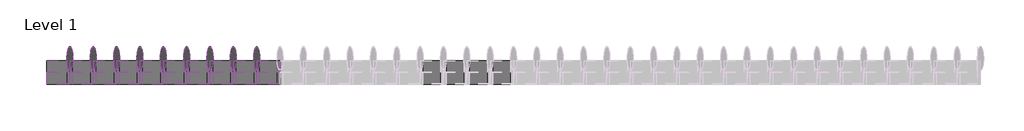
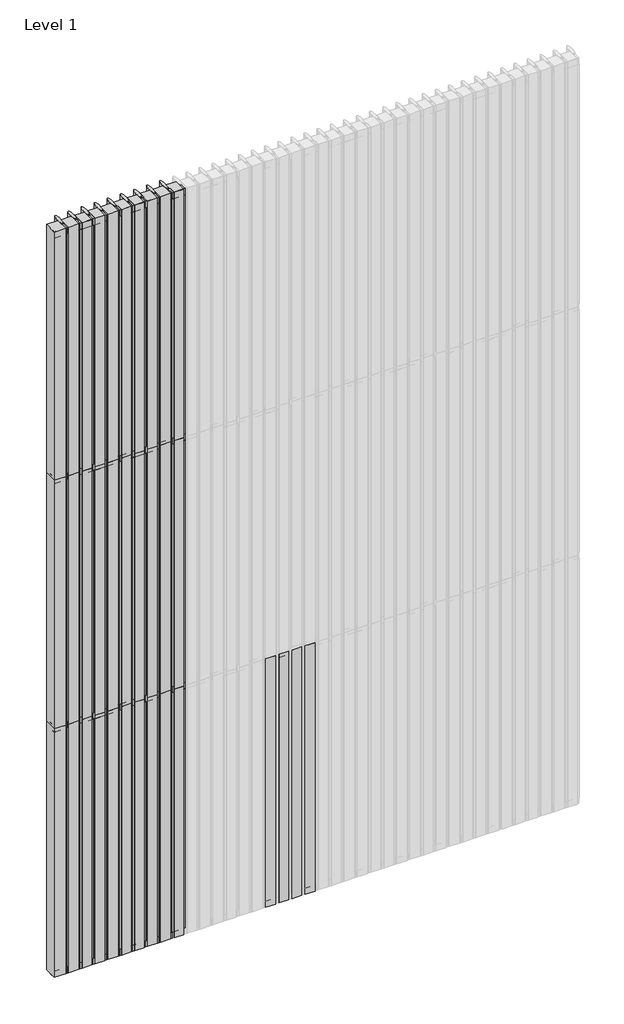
# One storey, part 1 of 6: 66 members, 64 plates.
"""IFC4 building model written with IfcOpenShell, lengths in millimetres."""

from ifc_helpers import new_model, si_unit, origin, place, context, project, spatial, transform, mapped, element, save
from components import rectangular_mullion_31e9810d, rectangular_mullion_cddbc660, rectangular_mullion_a3e25429, rectangular_mullion_ae434dd9, empty_system_panel_empty_b0df5d9c, empty_system_panel_empty_de76a839, empty_system_panel_empty_5411477d, empty_system_panel_empty_c50988b4

model = new_model("IFC4")

# Units and contexts
model_context = context("Model", 3, world=origin())
ifc_project = project(units=[si_unit("LENGTHUNIT", "METRE", prefix="MILLI")], contexts=[model_context])

# Site, building, storey
site = spatial("IfcSite", under=ifc_project)
building = spatial("IfcBuilding", under=site)
storey = spatial("IfcBuildingStorey", under=building, Name="Level 1", Elevation=0.0)

# Members
placement = place(None, origin())
rectangular_mullion_shape = rectangular_mullion_31e9810d(model_context)
element("IfcMember", 1, ObjectType="Rectangular Mullion : RSen_21_CWM_blade - 100 ellips - 0°_gen_duco projects", at=placement, inside=storey, context=model_context, shape_type="MappedRepresentation", body=[
    mapped(rectangular_mullion_shape, transform((900.0, 3000.0, 0.0), x_axis=(-1.0, 0.0, 0.0), y_axis=(0.0, 1.0, 0.0), z_axis=(0.0, 0.0, -1.0))),
])
element("IfcMember", 2, ObjectType="Rectangular Mullion : RSen_21_CWM_blade - 100 ellips - 0°_gen_duco projects", at=placement, inside=storey, context=model_context, shape_type="MappedRepresentation", body=[
    mapped(rectangular_mullion_shape, transform((800.0, 3000.0, 0.0), x_axis=(-1.0, 0.0, 0.0), y_axis=(0.0, 1.0, 0.0), z_axis=(0.0, 0.0, -1.0))),
])
element("IfcMember", 3, ObjectType="Rectangular Mullion : RSen_21_CWM_blade - 100 ellips - 0°_gen_duco projects", at=placement, inside=storey, context=model_context, shape_type="MappedRepresentation", body=[
    mapped(rectangular_mullion_shape, transform((700.0, 3000.0, 0.0), x_axis=(-1.0, 0.0, 0.0), y_axis=(0.0, 1.0, 0.0), z_axis=(0.0, 0.0, -1.0))),
])
element("IfcMember", 4, ObjectType="Rectangular Mullion : RSen_21_CWM_blade - 100 ellips - 0°_gen_duco projects", at=placement, inside=storey, context=model_context, shape_type="MappedRepresentation", body=[
    mapped(rectangular_mullion_shape, transform((600.0, 3000.0, 0.0), x_axis=(-1.0, 0.0, 0.0), y_axis=(0.0, 1.0, 0.0), z_axis=(0.0, 0.0, -1.0))),
])
element("IfcMember", 5, ObjectType="Rectangular Mullion : RSen_21_CWM_blade - 100 ellips - 0°_gen_duco projects", at=placement, inside=storey, context=model_context, shape_type="MappedRepresentation", body=[
    mapped(rectangular_mullion_shape, transform((500.0, 3000.0, 0.0), x_axis=(-1.0, 0.0, 0.0), y_axis=(0.0, 1.0, 0.0), z_axis=(0.0, 0.0, -1.0))),
])
element("IfcMember", 6, ObjectType="Rectangular Mullion : RSen_21_CWM_blade - 100 ellips - 0°_gen_duco projects", at=placement, inside=storey, context=model_context, shape_type="MappedRepresentation", body=[
    mapped(rectangular_mullion_shape, transform((400.0, 3000.0, 0.0), x_axis=(-1.0, 0.0, 0.0), y_axis=(0.0, 1.0, 0.0), z_axis=(0.0, 0.0, -1.0))),
])
element("IfcMember", 7, ObjectType="Rectangular Mullion : RSen_21_CWM_blade - 100 ellips - 0°_gen_duco projects", at=placement, inside=storey, context=model_context, shape_type="MappedRepresentation", body=[
    mapped(rectangular_mullion_shape, transform((300.0, 3000.0, 0.0), x_axis=(-1.0, 0.0, 0.0), y_axis=(0.0, 1.0, 0.0), z_axis=(0.0, 0.0, -1.0))),
])
element("IfcMember", 8, ObjectType="Rectangular Mullion : RSen_21_CWM_blade - 100 ellips - 0°_gen_duco projects", at=placement, inside=storey, context=model_context, shape_type="MappedRepresentation", body=[
    mapped(rectangular_mullion_shape, transform((200.0, 3000.0, 0.0), x_axis=(-1.0, 0.0, 0.0), y_axis=(0.0, 1.0, 0.0), z_axis=(0.0, 0.0, -1.0))),
])
element("IfcMember", 9, ObjectType="Rectangular Mullion : RSen_21_CWM_blade - 100 ellips - 0°_gen_duco projects", at=placement, inside=storey, context=model_context, shape_type="MappedRepresentation", body=[
    mapped(rectangular_mullion_shape, transform((100.0, 3000.0, 0.0), x_axis=(-1.0, 0.0, 0.0), y_axis=(0.0, 1.0, 0.0), z_axis=(0.0, 0.0, -1.0))),
])
element("IfcMember", 10, ObjectType="Rectangular Mullion : RSen_21_CWM_blade - 100 ellips - 0°_gen_duco projects", at=placement, inside=storey, context=model_context, shape_type="MappedRepresentation", body=[
    mapped(rectangular_mullion_shape, transform((900.0, 3000.0, 2000.0), x_axis=(-1.0, 0.0, 0.0), y_axis=(0.0, 1.0, 0.0), z_axis=(0.0, 0.0, -1.0))),
])
element("IfcMember", 11, ObjectType="Rectangular Mullion : RSen_21_CWM_blade - 100 ellips - 0°_gen_duco projects", at=placement, inside=storey, context=model_context, shape_type="MappedRepresentation", body=[
    mapped(rectangular_mullion_shape, transform((800.0, 3000.0, 2000.0), x_axis=(-1.0, 0.0, 0.0), y_axis=(0.0, 1.0, 0.0), z_axis=(0.0, 0.0, -1.0))),
])
element("IfcMember", 12, ObjectType="Rectangular Mullion : RSen_21_CWM_blade - 100 ellips - 0°_gen_duco projects", at=placement, inside=storey, context=model_context, shape_type="MappedRepresentation", body=[
    mapped(rectangular_mullion_shape, transform((700.0, 3000.0, 2000.0), x_axis=(-1.0, 0.0, 0.0), y_axis=(0.0, 1.0, 0.0), z_axis=(0.0, 0.0, -1.0))),
])
element("IfcMember", 13, ObjectType="Rectangular Mullion : RSen_21_CWM_blade - 100 ellips - 0°_gen_duco projects", at=placement, inside=storey, context=model_context, shape_type="MappedRepresentation", body=[
    mapped(rectangular_mullion_shape, transform((600.0, 3000.0, 2000.0), x_axis=(-1.0, 0.0, 0.0), y_axis=(0.0, 1.0, 0.0), z_axis=(0.0, 0.0, -1.0))),
])
element("IfcMember", 14, ObjectType="Rectangular Mullion : RSen_21_CWM_blade - 100 ellips - 0°_gen_duco projects", at=placement, inside=storey, context=model_context, shape_type="MappedRepresentation", body=[
    mapped(rectangular_mullion_shape, transform((500.0, 3000.0, 2000.0), x_axis=(-1.0, 0.0, 0.0), y_axis=(0.0, 1.0, 0.0), z_axis=(0.0, 0.0, -1.0))),
])
element("IfcMember", 15, ObjectType="Rectangular Mullion : RSen_21_CWM_blade - 100 ellips - 0°_gen_duco projects", at=placement, inside=storey, context=model_context, shape_type="MappedRepresentation", body=[
    mapped(rectangular_mullion_shape, transform((400.0, 3000.0, 2000.0), x_axis=(-1.0, 0.0, 0.0), y_axis=(0.0, 1.0, 0.0), z_axis=(0.0, 0.0, -1.0))),
])
element("IfcMember", 16, ObjectType="Rectangular Mullion : RSen_21_CWM_blade - 100 ellips - 0°_gen_duco projects", at=placement, inside=storey, context=model_context, shape_type="MappedRepresentation", body=[
    mapped(rectangular_mullion_shape, transform((300.0, 3000.0, 2000.0), x_axis=(-1.0, 0.0, 0.0), y_axis=(0.0, 1.0, 0.0), z_axis=(0.0, 0.0, -1.0))),
])
element("IfcMember", 17, ObjectType="Rectangular Mullion : RSen_21_CWM_blade - 100 ellips - 0°_gen_duco projects", at=placement, inside=storey, context=model_context, shape_type="MappedRepresentation", body=[
    mapped(rectangular_mullion_shape, transform((200.0, 3000.0, 2000.0), x_axis=(-1.0, 0.0, 0.0), y_axis=(0.0, 1.0, 0.0), z_axis=(0.0, 0.0, -1.0))),
])
element("IfcMember", 18, ObjectType="Rectangular Mullion : RSen_21_CWM_blade - 100 ellips - 0°_gen_duco projects", at=placement, inside=storey, context=model_context, shape_type="MappedRepresentation", body=[
    mapped(rectangular_mullion_shape, transform((100.0, 3000.0, 2000.0), x_axis=(-1.0, 0.0, 0.0), y_axis=(0.0, 1.0, 0.0), z_axis=(0.0, 0.0, -1.0))),
])
element("IfcMember", 19, ObjectType="Rectangular Mullion : RSen_21_CWM_blade - 100 ellips - 0°_gen_duco projects", at=placement, inside=storey, context=model_context, shape_type="MappedRepresentation", body=[
    mapped(rectangular_mullion_shape, transform((900.0, 3000.0, 4000.0), x_axis=(-1.0, 0.0, 0.0), y_axis=(0.0, 1.0, 0.0), z_axis=(0.0, 0.0, -1.0))),
])
element("IfcMember", 20, ObjectType="Rectangular Mullion : RSen_21_CWM_blade - 100 ellips - 0°_gen_duco projects", at=placement, inside=storey, context=model_context, shape_type="MappedRepresentation", body=[
    mapped(rectangular_mullion_shape, transform((800.0, 3000.0, 4000.0), x_axis=(-1.0, 0.0, 0.0), y_axis=(0.0, 1.0, 0.0), z_axis=(0.0, 0.0, -1.0))),
])
element("IfcMember", 21, ObjectType="Rectangular Mullion : RSen_21_CWM_blade - 100 ellips - 0°_gen_duco projects", at=placement, inside=storey, context=model_context, shape_type="MappedRepresentation", body=[
    mapped(rectangular_mullion_shape, transform((700.0, 3000.0, 4000.0), x_axis=(-1.0, 0.0, 0.0), y_axis=(0.0, 1.0, 0.0), z_axis=(0.0, 0.0, -1.0))),
])
element("IfcMember", 22, ObjectType="Rectangular Mullion : RSen_21_CWM_blade - 100 ellips - 0°_gen_duco projects", at=placement, inside=storey, context=model_context, shape_type="MappedRepresentation", body=[
    mapped(rectangular_mullion_shape, transform((600.0, 3000.0, 4000.0), x_axis=(-1.0, 0.0, 0.0), y_axis=(0.0, 1.0, 0.0), z_axis=(0.0, 0.0, -1.0))),
])
element("IfcMember", 23, ObjectType="Rectangular Mullion : RSen_21_CWM_blade - 100 ellips - 0°_gen_duco projects", at=placement, inside=storey, context=model_context, shape_type="MappedRepresentation", body=[
    mapped(rectangular_mullion_shape, transform((500.0, 3000.0, 4000.0), x_axis=(-1.0, 0.0, 0.0), y_axis=(0.0, 1.0, 0.0), z_axis=(0.0, 0.0, -1.0))),
])
element("IfcMember", 24, ObjectType="Rectangular Mullion : RSen_21_CWM_blade - 100 ellips - 0°_gen_duco projects", at=placement, inside=storey, context=model_context, shape_type="MappedRepresentation", body=[
    mapped(rectangular_mullion_shape, transform((400.0, 3000.0, 4000.0), x_axis=(-1.0, 0.0, 0.0), y_axis=(0.0, 1.0, 0.0), z_axis=(0.0, 0.0, -1.0))),
])
element("IfcMember", 25, ObjectType="Rectangular Mullion : RSen_21_CWM_blade - 100 ellips - 0°_gen_duco projects", at=placement, inside=storey, context=model_context, shape_type="MappedRepresentation", body=[
    mapped(rectangular_mullion_shape, transform((300.0, 3000.0, 4000.0), x_axis=(-1.0, 0.0, 0.0), y_axis=(0.0, 1.0, 0.0), z_axis=(0.0, 0.0, -1.0))),
])
element("IfcMember", 26, ObjectType="Rectangular Mullion : RSen_21_CWM_blade - 100 ellips - 0°_gen_duco projects", at=placement, inside=storey, context=model_context, shape_type="MappedRepresentation", body=[
    mapped(rectangular_mullion_shape, transform((200.0, 3000.0, 4000.0), x_axis=(-1.0, 0.0, 0.0), y_axis=(0.0, 1.0, 0.0), z_axis=(0.0, 0.0, -1.0))),
])
element("IfcMember", 27, ObjectType="Rectangular Mullion : RSen_21_CWM_blade - 100 ellips - 0°_gen_duco projects", at=placement, inside=storey, context=model_context, shape_type="MappedRepresentation", body=[
    mapped(rectangular_mullion_shape, transform((100.0, 3000.0, 4000.0), x_axis=(-1.0, 0.0, 0.0), y_axis=(0.0, 1.0, 0.0), z_axis=(0.0, 0.0, -1.0))),
])
rectangular_mullion_2_shape = rectangular_mullion_cddbc660(model_context)
element("IfcMember", 28, ObjectType="Rectangular Mullion : RSen_21_CWM_support profile 50x50 - left_gen_duco projects", at=placement, inside=storey, context=model_context, shape_type="MappedRepresentation", body=[
    mapped(rectangular_mullion_2_shape, transform((0.0, 3000.0, 6000.0), x_axis=(0.0, 0.0, 1.0), y_axis=(0.0, 1.0, 0.0), z_axis=(-1.0, 0.0, 0.0))),
])
element("IfcMember", 29, ObjectType="Rectangular Mullion : RSen_21_CWM_support profile 50x50 - left_gen_duco projects", at=placement, inside=storey, context=model_context, shape_type="MappedRepresentation", body=[
    mapped(rectangular_mullion_2_shape, transform((900.0, 3000.0, 6000.0), x_axis=(0.0, 0.0, 1.0), y_axis=(0.0, 1.0, 0.0), z_axis=(-1.0, 0.0, 0.0))),
])
element("IfcMember", 30, ObjectType="Rectangular Mullion : RSen_21_CWM_support profile 50x50 - left_gen_duco projects", at=placement, inside=storey, context=model_context, shape_type="MappedRepresentation", body=[
    mapped(rectangular_mullion_2_shape, transform((800.0, 3000.0, 6000.0), x_axis=(0.0, 0.0, 1.0), y_axis=(0.0, 1.0, 0.0), z_axis=(-1.0, 0.0, 0.0))),
])
element("IfcMember", 31, ObjectType="Rectangular Mullion : RSen_21_CWM_support profile 50x50 - left_gen_duco projects", at=placement, inside=storey, context=model_context, shape_type="MappedRepresentation", body=[
    mapped(rectangular_mullion_2_shape, transform((700.0, 3000.0, 6000.0), x_axis=(0.0, 0.0, 1.0), y_axis=(0.0, 1.0, 0.0), z_axis=(-1.0, 0.0, 0.0))),
])
element("IfcMember", 32, ObjectType="Rectangular Mullion : RSen_21_CWM_support profile 50x50 - left_gen_duco projects", at=placement, inside=storey, context=model_context, shape_type="MappedRepresentation", body=[
    mapped(rectangular_mullion_2_shape, transform((600.0, 3000.0, 6000.0), x_axis=(0.0, 0.0, 1.0), y_axis=(0.0, 1.0, 0.0), z_axis=(-1.0, 0.0, 0.0))),
])
element("IfcMember", 33, ObjectType="Rectangular Mullion : RSen_21_CWM_support profile 50x50 - left_gen_duco projects", at=placement, inside=storey, context=model_context, shape_type="MappedRepresentation", body=[
    mapped(rectangular_mullion_2_shape, transform((500.0, 3000.0, 6000.0), x_axis=(0.0, 0.0, 1.0), y_axis=(0.0, 1.0, 0.0), z_axis=(-1.0, 0.0, 0.0))),
])
element("IfcMember", 34, ObjectType="Rectangular Mullion : RSen_21_CWM_support profile 50x50 - left_gen_duco projects", at=placement, inside=storey, context=model_context, shape_type="MappedRepresentation", body=[
    mapped(rectangular_mullion_2_shape, transform((400.0, 3000.0, 6000.0), x_axis=(0.0, 0.0, 1.0), y_axis=(0.0, 1.0, 0.0), z_axis=(-1.0, 0.0, 0.0))),
])
element("IfcMember", 35, ObjectType="Rectangular Mullion : RSen_21_CWM_support profile 50x50 - left_gen_duco projects", at=placement, inside=storey, context=model_context, shape_type="MappedRepresentation", body=[
    mapped(rectangular_mullion_2_shape, transform((300.0, 3000.0, 6000.0), x_axis=(0.0, 0.0, 1.0), y_axis=(0.0, 1.0, 0.0), z_axis=(-1.0, 0.0, 0.0))),
])
element("IfcMember", 36, ObjectType="Rectangular Mullion : RSen_21_CWM_support profile 50x50 - left_gen_duco projects", at=placement, inside=storey, context=model_context, shape_type="MappedRepresentation", body=[
    mapped(rectangular_mullion_2_shape, transform((200.0, 3000.0, 6000.0), x_axis=(0.0, 0.0, 1.0), y_axis=(0.0, 1.0, 0.0), z_axis=(-1.0, 0.0, 0.0))),
])
element("IfcMember", 37, ObjectType="Rectangular Mullion : RSen_21_CWM_support profile 50x50 - left_gen_duco projects", at=placement, inside=storey, context=model_context, shape_type="MappedRepresentation", body=[
    mapped(rectangular_mullion_2_shape, transform((100.0, 3000.0, 6000.0), x_axis=(0.0, 0.0, 1.0), y_axis=(0.0, 1.0, 0.0), z_axis=(-1.0, 0.0, 0.0))),
])
rectangular_mullion_3_shape = rectangular_mullion_a3e25429(model_context)
element("IfcMember", 38, ObjectType="Rectangular Mullion : RSen_21_CWM_support profile 50x50 - right_gen_duco projects", at=placement, inside=storey, context=model_context, shape_type="MappedRepresentation", body=[
    mapped(rectangular_mullion_3_shape, transform((900.0, 3000.0, 0.0), x_axis=(0.0, 0.0, -1.0), y_axis=(0.0, 1.0, 0.0), z_axis=(1.0, 0.0, 0.0))),
])
element("IfcMember", 39, ObjectType="Rectangular Mullion : RSen_21_CWM_support profile 50x50 - right_gen_duco projects", at=placement, inside=storey, context=model_context, shape_type="MappedRepresentation", body=[
    mapped(rectangular_mullion_3_shape, transform((800.0, 3000.0, 0.0), x_axis=(0.0, 0.0, -1.0), y_axis=(0.0, 1.0, 0.0), z_axis=(1.0, 0.0, 0.0))),
])
element("IfcMember", 40, ObjectType="Rectangular Mullion : RSen_21_CWM_support profile 50x50 - right_gen_duco projects", at=placement, inside=storey, context=model_context, shape_type="MappedRepresentation", body=[
    mapped(rectangular_mullion_3_shape, transform((700.0, 3000.0, 0.0), x_axis=(0.0, 0.0, -1.0), y_axis=(0.0, 1.0, 0.0), z_axis=(1.0, 0.0, 0.0))),
])
element("IfcMember", 41, ObjectType="Rectangular Mullion : RSen_21_CWM_support profile 50x50 - right_gen_duco projects", at=placement, inside=storey, context=model_context, shape_type="MappedRepresentation", body=[
    mapped(rectangular_mullion_3_shape, transform((600.0, 3000.0, 0.0), x_axis=(0.0, 0.0, -1.0), y_axis=(0.0, 1.0, 0.0), z_axis=(1.0, 0.0, 0.0))),
])
element("IfcMember", 42, ObjectType="Rectangular Mullion : RSen_21_CWM_support profile 50x50 - right_gen_duco projects", at=placement, inside=storey, context=model_context, shape_type="MappedRepresentation", body=[
    mapped(rectangular_mullion_3_shape, transform((500.0, 3000.0, 0.0), x_axis=(0.0, 0.0, -1.0), y_axis=(0.0, 1.0, 0.0), z_axis=(1.0, 0.0, 0.0))),
])
element("IfcMember", 43, ObjectType="Rectangular Mullion : RSen_21_CWM_support profile 50x50 - right_gen_duco projects", at=placement, inside=storey, context=model_context, shape_type="MappedRepresentation", body=[
    mapped(rectangular_mullion_3_shape, transform((400.0, 3000.0, 0.0), x_axis=(0.0, 0.0, -1.0), y_axis=(0.0, 1.0, 0.0), z_axis=(1.0, 0.0, 0.0))),
])
element("IfcMember", 44, ObjectType="Rectangular Mullion : RSen_21_CWM_support profile 50x50 - right_gen_duco projects", at=placement, inside=storey, context=model_context, shape_type="MappedRepresentation", body=[
    mapped(rectangular_mullion_3_shape, transform((300.0, 3000.0, 0.0), x_axis=(0.0, 0.0, -1.0), y_axis=(0.0, 1.0, 0.0), z_axis=(1.0, 0.0, 0.0))),
])
element("IfcMember", 45, ObjectType="Rectangular Mullion : RSen_21_CWM_support profile 50x50 - right_gen_duco projects", at=placement, inside=storey, context=model_context, shape_type="MappedRepresentation", body=[
    mapped(rectangular_mullion_3_shape, transform((200.0, 3000.0, 0.0), x_axis=(0.0, 0.0, -1.0), y_axis=(0.0, 1.0, 0.0), z_axis=(1.0, 0.0, 0.0))),
])
element("IfcMember", 46, ObjectType="Rectangular Mullion : RSen_21_CWM_support profile 50x50 - right_gen_duco projects", at=placement, inside=storey, context=model_context, shape_type="MappedRepresentation", body=[
    mapped(rectangular_mullion_3_shape, transform((100.0, 3000.0, 0.0), x_axis=(0.0, 0.0, -1.0), y_axis=(0.0, 1.0, 0.0), z_axis=(1.0, 0.0, 0.0))),
])
rectangular_mullion_4_shape = rectangular_mullion_ae434dd9(model_context)
element("IfcMember", 47, ObjectType="Rectangular Mullion : RSen_21_CWM_support profile 50x50_gen_duco projects", at=placement, inside=storey, context=model_context, shape_type="MappedRepresentation", body=[
    mapped(rectangular_mullion_4_shape, transform((900.0, 3000.0, 2000.0), x_axis=(0.0, 0.0, 1.0), y_axis=(0.0, 1.0, 0.0), z_axis=(-1.0, 0.0, 0.0))),
])
element("IfcMember", 48, ObjectType="Rectangular Mullion : RSen_21_CWM_support profile 50x50_gen_duco projects", at=placement, inside=storey, context=model_context, shape_type="MappedRepresentation", body=[
    mapped(rectangular_mullion_4_shape, transform((800.0, 3000.0, 2000.0), x_axis=(0.0, 0.0, 1.0), y_axis=(0.0, 1.0, 0.0), z_axis=(-1.0, 0.0, 0.0))),
])
element("IfcMember", 49, ObjectType="Rectangular Mullion : RSen_21_CWM_support profile 50x50_gen_duco projects", at=placement, inside=storey, context=model_context, shape_type="MappedRepresentation", body=[
    mapped(rectangular_mullion_4_shape, transform((700.0, 3000.0, 2000.0), x_axis=(0.0, 0.0, 1.0), y_axis=(0.0, 1.0, 0.0), z_axis=(-1.0, 0.0, 0.0))),
])
element("IfcMember", 50, ObjectType="Rectangular Mullion : RSen_21_CWM_support profile 50x50_gen_duco projects", at=placement, inside=storey, context=model_context, shape_type="MappedRepresentation", body=[
    mapped(rectangular_mullion_4_shape, transform((600.0, 3000.0, 2000.0), x_axis=(0.0, 0.0, 1.0), y_axis=(0.0, 1.0, 0.0), z_axis=(-1.0, 0.0, 0.0))),
])
element("IfcMember", 51, ObjectType="Rectangular Mullion : RSen_21_CWM_support profile 50x50_gen_duco projects", at=placement, inside=storey, context=model_context, shape_type="MappedRepresentation", body=[
    mapped(rectangular_mullion_4_shape, transform((500.0, 3000.0, 2000.0), x_axis=(0.0, 0.0, 1.0), y_axis=(0.0, 1.0, 0.0), z_axis=(-1.0, 0.0, 0.0))),
])
element("IfcMember", 52, ObjectType="Rectangular Mullion : RSen_21_CWM_support profile 50x50_gen_duco projects", at=placement, inside=storey, context=model_context, shape_type="MappedRepresentation", body=[
    mapped(rectangular_mullion_4_shape, transform((400.0, 3000.0, 2000.0), x_axis=(0.0, 0.0, 1.0), y_axis=(0.0, 1.0, 0.0), z_axis=(-1.0, 0.0, 0.0))),
])
element("IfcMember", 53, ObjectType="Rectangular Mullion : RSen_21_CWM_support profile 50x50_gen_duco projects", at=placement, inside=storey, context=model_context, shape_type="MappedRepresentation", body=[
    mapped(rectangular_mullion_4_shape, transform((300.0, 3000.0, 2000.0), x_axis=(0.0, 0.0, 1.0), y_axis=(0.0, 1.0, 0.0), z_axis=(-1.0, 0.0, 0.0))),
])
element("IfcMember", 54, ObjectType="Rectangular Mullion : RSen_21_CWM_support profile 50x50_gen_duco projects", at=placement, inside=storey, context=model_context, shape_type="MappedRepresentation", body=[
    mapped(rectangular_mullion_4_shape, transform((200.0, 3000.0, 2000.0), x_axis=(0.0, 0.0, 1.0), y_axis=(0.0, 1.0, 0.0), z_axis=(-1.0, 0.0, 0.0))),
])
element("IfcMember", 55, ObjectType="Rectangular Mullion : RSen_21_CWM_support profile 50x50_gen_duco projects", at=placement, inside=storey, context=model_context, shape_type="MappedRepresentation", body=[
    mapped(rectangular_mullion_4_shape, transform((100.0, 3000.0, 2000.0), x_axis=(0.0, 0.0, 1.0), y_axis=(0.0, 1.0, 0.0), z_axis=(-1.0, 0.0, 0.0))),
])
element("IfcMember", 56, ObjectType="Rectangular Mullion : RSen_21_CWM_support profile 50x50_gen_duco projects", at=placement, inside=storey, context=model_context, shape_type="MappedRepresentation", body=[
    mapped(rectangular_mullion_4_shape, transform((900.0, 3000.0, 4000.0), x_axis=(0.0, 0.0, 1.0), y_axis=(0.0, 1.0, 0.0), z_axis=(-1.0, 0.0, 0.0))),
])
element("IfcMember", 57, ObjectType="Rectangular Mullion : RSen_21_CWM_support profile 50x50_gen_duco projects", at=placement, inside=storey, context=model_context, shape_type="MappedRepresentation", body=[
    mapped(rectangular_mullion_4_shape, transform((800.0, 3000.0, 4000.0), x_axis=(0.0, 0.0, 1.0), y_axis=(0.0, 1.0, 0.0), z_axis=(-1.0, 0.0, 0.0))),
])
element("IfcMember", 58, ObjectType="Rectangular Mullion : RSen_21_CWM_support profile 50x50_gen_duco projects", at=placement, inside=storey, context=model_context, shape_type="MappedRepresentation", body=[
    mapped(rectangular_mullion_4_shape, transform((700.0, 3000.0, 4000.0), x_axis=(0.0, 0.0, 1.0), y_axis=(0.0, 1.0, 0.0), z_axis=(-1.0, 0.0, 0.0))),
])
element("IfcMember", 59, ObjectType="Rectangular Mullion : RSen_21_CWM_support profile 50x50_gen_duco projects", at=placement, inside=storey, context=model_context, shape_type="MappedRepresentation", body=[
    mapped(rectangular_mullion_4_shape, transform((600.0, 3000.0, 4000.0), x_axis=(0.0, 0.0, 1.0), y_axis=(0.0, 1.0, 0.0), z_axis=(-1.0, 0.0, 0.0))),
])
element("IfcMember", 60, ObjectType="Rectangular Mullion : RSen_21_CWM_support profile 50x50_gen_duco projects", at=placement, inside=storey, context=model_context, shape_type="MappedRepresentation", body=[
    mapped(rectangular_mullion_4_shape, transform((500.0, 3000.0, 4000.0), x_axis=(0.0, 0.0, 1.0), y_axis=(0.0, 1.0, 0.0), z_axis=(-1.0, 0.0, 0.0))),
])
element("IfcMember", 61, ObjectType="Rectangular Mullion : RSen_21_CWM_support profile 50x50_gen_duco projects", at=placement, inside=storey, context=model_context, shape_type="MappedRepresentation", body=[
    mapped(rectangular_mullion_4_shape, transform((400.0, 3000.0, 4000.0), x_axis=(0.0, 0.0, 1.0), y_axis=(0.0, 1.0, 0.0), z_axis=(-1.0, 0.0, 0.0))),
])
element("IfcMember", 62, ObjectType="Rectangular Mullion : RSen_21_CWM_support profile 50x50_gen_duco projects", at=placement, inside=storey, context=model_context, shape_type="MappedRepresentation", body=[
    mapped(rectangular_mullion_4_shape, transform((300.0, 3000.0, 4000.0), x_axis=(0.0, 0.0, 1.0), y_axis=(0.0, 1.0, 0.0), z_axis=(-1.0, 0.0, 0.0))),
])
element("IfcMember", 63, ObjectType="Rectangular Mullion : RSen_21_CWM_support profile 50x50_gen_duco projects", at=placement, inside=storey, context=model_context, shape_type="MappedRepresentation", body=[
    mapped(rectangular_mullion_4_shape, transform((200.0, 3000.0, 4000.0), x_axis=(0.0, 0.0, 1.0), y_axis=(0.0, 1.0, 0.0), z_axis=(-1.0, 0.0, 0.0))),
])
element("IfcMember", 64, ObjectType="Rectangular Mullion : RSen_21_CWM_support profile 50x50_gen_duco projects", at=placement, inside=storey, context=model_context, shape_type="MappedRepresentation", body=[
    mapped(rectangular_mullion_4_shape, transform((100.0, 3000.0, 4000.0), x_axis=(0.0, 0.0, 1.0), y_axis=(0.0, 1.0, 0.0), z_axis=(-1.0, 0.0, 0.0))),
])
element("IfcMember", 65, ObjectType="Rectangular Mullion : RSen_21_CWM_support profile 50x50_gen_duco projects", at=placement, inside=storey, context=model_context, shape_type="MappedRepresentation", body=[
    mapped(rectangular_mullion_4_shape, transform((0.0, 3000.0, 2000.0), x_axis=(0.0, 0.0, 1.0), y_axis=(0.0, 1.0, 0.0), z_axis=(-1.0, 0.0, 0.0))),
])
element("IfcMember", 66, ObjectType="Rectangular Mullion : RSen_21_CWM_support profile 50x50_gen_duco projects", at=placement, inside=storey, context=model_context, shape_type="MappedRepresentation", body=[
    mapped(rectangular_mullion_4_shape, transform((0.0, 3000.0, 4000.0), x_axis=(0.0, 0.0, 1.0), y_axis=(0.0, 1.0, 0.0), z_axis=(-1.0, 0.0, 0.0))),
])

# Plates
empty_system_panel_empty_shape = empty_system_panel_empty_b0df5d9c(model_context)
element("IfcPlate", 67, ObjectType="Empty System Panel : Empty", at=placement, inside=storey, context=model_context, shape_type="MappedRepresentation", body=[
    mapped(empty_system_panel_empty_shape, transform((43.5, 3000.0, 0.0), x_axis=(-1.0, 0.0, 0.0), y_axis=(0.0, -1.0, 0.0), z_axis=(0.0, 0.0, 1.0))),
])
element("IfcPlate", 68, ObjectType="Empty System Panel : Empty", at=placement, inside=storey, context=model_context, shape_type="MappedRepresentation", body=[
    mapped(empty_system_panel_empty_shape, transform((43.5, 3000.0, 2000.0), x_axis=(-1.0, 0.0, 0.0), y_axis=(0.0, -1.0, 0.0), z_axis=(0.0, 0.0, 1.0))),
])
element("IfcPlate", 69, ObjectType="Empty System Panel : Empty", at=placement, inside=storey, context=model_context, shape_type="MappedRepresentation", body=[
    mapped(empty_system_panel_empty_shape, transform((43.5, 3000.0, 4000.0), x_axis=(-1.0, 0.0, 0.0), y_axis=(0.0, -1.0, 0.0), z_axis=(0.0, 0.0, 1.0))),
])
empty_system_panel_empty_2_shape = empty_system_panel_empty_de76a839(model_context)
element("IfcPlate", 70, ObjectType="Empty System Panel : Empty", at=placement, inside=storey, context=model_context, shape_type="MappedRepresentation", body=[
    mapped(empty_system_panel_empty_2_shape, transform((1950.0, 3000.0, 0.0), x_axis=(-1.0, 0.0, 0.0), y_axis=(0.0, -1.0, 0.0), z_axis=(0.0, 0.0, 1.0))),
])
element("IfcPlate", 71, ObjectType="Empty System Panel : Empty", at=placement, inside=storey, context=model_context, shape_type="MappedRepresentation", body=[
    mapped(empty_system_panel_empty_2_shape, transform((1850.0, 3000.0, 0.0), x_axis=(-1.0, 0.0, 0.0), y_axis=(0.0, -1.0, 0.0), z_axis=(0.0, 0.0, 1.0))),
])
element("IfcPlate", 72, ObjectType="Empty System Panel : Empty", at=placement, inside=storey, context=model_context, shape_type="MappedRepresentation", body=[
    mapped(empty_system_panel_empty_2_shape, transform((1750.0, 3000.0, 0.0), x_axis=(-1.0, 0.0, 0.0), y_axis=(0.0, -1.0, 0.0), z_axis=(0.0, 0.0, 1.0))),
])
element("IfcPlate", 73, ObjectType="Empty System Panel : Empty", at=placement, inside=storey, context=model_context, shape_type="MappedRepresentation", body=[
    mapped(empty_system_panel_empty_2_shape, transform((1650.0, 3000.0, 0.0), x_axis=(-1.0, 0.0, 0.0), y_axis=(0.0, -1.0, 0.0), z_axis=(0.0, 0.0, 1.0))),
])
element("IfcPlate", 74, ObjectType="Empty System Panel : Empty", at=placement, inside=storey, context=model_context, shape_type="MappedRepresentation", body=[
    mapped(empty_system_panel_empty_2_shape, transform((950.0, 3000.0, 0.0), x_axis=(-1.0, 0.0, 0.0), y_axis=(0.0, -1.0, 0.0), z_axis=(0.0, 0.0, 1.0))),
])
element("IfcPlate", 75, ObjectType="Empty System Panel : Empty", at=placement, inside=storey, context=model_context, shape_type="MappedRepresentation", body=[
    mapped(empty_system_panel_empty_2_shape, transform((850.0, 3000.0, 0.0), x_axis=(-1.0, 0.0, 0.0), y_axis=(0.0, -1.0, 0.0), z_axis=(0.0, 0.0, 1.0))),
])
element("IfcPlate", 76, ObjectType="Empty System Panel : Empty", at=placement, inside=storey, context=model_context, shape_type="MappedRepresentation", body=[
    mapped(empty_system_panel_empty_2_shape, transform((750.0, 3000.0, 0.0), x_axis=(-1.0, 0.0, 0.0), y_axis=(0.0, -1.0, 0.0), z_axis=(0.0, 0.0, 1.0))),
])
element("IfcPlate", 77, ObjectType="Empty System Panel : Empty", at=placement, inside=storey, context=model_context, shape_type="MappedRepresentation", body=[
    mapped(empty_system_panel_empty_2_shape, transform((650.0, 3000.0, 0.0), x_axis=(-1.0, 0.0, 0.0), y_axis=(0.0, -1.0, 0.0), z_axis=(0.0, 0.0, 1.0))),
])
element("IfcPlate", 78, ObjectType="Empty System Panel : Empty", at=placement, inside=storey, context=model_context, shape_type="MappedRepresentation", body=[
    mapped(empty_system_panel_empty_2_shape, transform((550.0, 3000.0, 0.0), x_axis=(-1.0, 0.0, 0.0), y_axis=(0.0, -1.0, 0.0), z_axis=(0.0, 0.0, 1.0))),
])
element("IfcPlate", 79, ObjectType="Empty System Panel : Empty", at=placement, inside=storey, context=model_context, shape_type="MappedRepresentation", body=[
    mapped(empty_system_panel_empty_2_shape, transform((450.0, 3000.0, 0.0), x_axis=(-1.0, 0.0, 0.0), y_axis=(0.0, -1.0, 0.0), z_axis=(0.0, 0.0, 1.0))),
])
element("IfcPlate", 80, ObjectType="Empty System Panel : Empty", at=placement, inside=storey, context=model_context, shape_type="MappedRepresentation", body=[
    mapped(empty_system_panel_empty_2_shape, transform((350.0, 3000.0, 0.0), x_axis=(-1.0, 0.0, 0.0), y_axis=(0.0, -1.0, 0.0), z_axis=(0.0, 0.0, 1.0))),
])
element("IfcPlate", 81, ObjectType="Empty System Panel : Empty", at=placement, inside=storey, context=model_context, shape_type="MappedRepresentation", body=[
    mapped(empty_system_panel_empty_2_shape, transform((250.0, 3000.0, 0.0), x_axis=(-1.0, 0.0, 0.0), y_axis=(0.0, -1.0, 0.0), z_axis=(0.0, 0.0, 1.0))),
])
element("IfcPlate", 82, ObjectType="Empty System Panel : Empty", at=placement, inside=storey, context=model_context, shape_type="MappedRepresentation", body=[
    mapped(empty_system_panel_empty_2_shape, transform((150.0, 3000.0, 0.0), x_axis=(-1.0, 0.0, 0.0), y_axis=(0.0, -1.0, 0.0), z_axis=(0.0, 0.0, 1.0))),
])
element("IfcPlate", 83, ObjectType="Empty System Panel : Empty", at=placement, inside=storey, context=model_context, shape_type="MappedRepresentation", body=[
    mapped(empty_system_panel_empty_2_shape, transform((950.0, 3000.0, 2000.0), x_axis=(-1.0, 0.0, 0.0), y_axis=(0.0, -1.0, 0.0), z_axis=(0.0, 0.0, 1.0))),
])
element("IfcPlate", 84, ObjectType="Empty System Panel : Empty", at=placement, inside=storey, context=model_context, shape_type="MappedRepresentation", body=[
    mapped(empty_system_panel_empty_2_shape, transform((850.0, 3000.0, 2000.0), x_axis=(-1.0, 0.0, 0.0), y_axis=(0.0, -1.0, 0.0), z_axis=(0.0, 0.0, 1.0))),
])
element("IfcPlate", 85, ObjectType="Empty System Panel : Empty", at=placement, inside=storey, context=model_context, shape_type="MappedRepresentation", body=[
    mapped(empty_system_panel_empty_2_shape, transform((750.0, 3000.0, 2000.0), x_axis=(-1.0, 0.0, 0.0), y_axis=(0.0, -1.0, 0.0), z_axis=(0.0, 0.0, 1.0))),
])
element("IfcPlate", 86, ObjectType="Empty System Panel : Empty", at=placement, inside=storey, context=model_context, shape_type="MappedRepresentation", body=[
    mapped(empty_system_panel_empty_2_shape, transform((650.0, 3000.0, 2000.0), x_axis=(-1.0, 0.0, 0.0), y_axis=(0.0, -1.0, 0.0), z_axis=(0.0, 0.0, 1.0))),
])
element("IfcPlate", 87, ObjectType="Empty System Panel : Empty", at=placement, inside=storey, context=model_context, shape_type="MappedRepresentation", body=[
    mapped(empty_system_panel_empty_2_shape, transform((550.0, 3000.0, 2000.0), x_axis=(-1.0, 0.0, 0.0), y_axis=(0.0, -1.0, 0.0), z_axis=(0.0, 0.0, 1.0))),
])
element("IfcPlate", 88, ObjectType="Empty System Panel : Empty", at=placement, inside=storey, context=model_context, shape_type="MappedRepresentation", body=[
    mapped(empty_system_panel_empty_2_shape, transform((450.0, 3000.0, 2000.0), x_axis=(-1.0, 0.0, 0.0), y_axis=(0.0, -1.0, 0.0), z_axis=(0.0, 0.0, 1.0))),
])
element("IfcPlate", 89, ObjectType="Empty System Panel : Empty", at=placement, inside=storey, context=model_context, shape_type="MappedRepresentation", body=[
    mapped(empty_system_panel_empty_2_shape, transform((350.0, 3000.0, 2000.0), x_axis=(-1.0, 0.0, 0.0), y_axis=(0.0, -1.0, 0.0), z_axis=(0.0, 0.0, 1.0))),
])
element("IfcPlate", 90, ObjectType="Empty System Panel : Empty", at=placement, inside=storey, context=model_context, shape_type="MappedRepresentation", body=[
    mapped(empty_system_panel_empty_2_shape, transform((250.0, 3000.0, 2000.0), x_axis=(-1.0, 0.0, 0.0), y_axis=(0.0, -1.0, 0.0), z_axis=(0.0, 0.0, 1.0))),
])
element("IfcPlate", 91, ObjectType="Empty System Panel : Empty", at=placement, inside=storey, context=model_context, shape_type="MappedRepresentation", body=[
    mapped(empty_system_panel_empty_2_shape, transform((150.0, 3000.0, 2000.0), x_axis=(-1.0, 0.0, 0.0), y_axis=(0.0, -1.0, 0.0), z_axis=(0.0, 0.0, 1.0))),
])
element("IfcPlate", 92, ObjectType="Empty System Panel : Empty", at=placement, inside=storey, context=model_context, shape_type="MappedRepresentation", body=[
    mapped(empty_system_panel_empty_2_shape, transform((950.0, 3000.0, 4000.0), x_axis=(-1.0, 0.0, 0.0), y_axis=(0.0, -1.0, 0.0), z_axis=(0.0, 0.0, 1.0))),
])
element("IfcPlate", 93, ObjectType="Empty System Panel : Empty", at=placement, inside=storey, context=model_context, shape_type="MappedRepresentation", body=[
    mapped(empty_system_panel_empty_2_shape, transform((850.0, 3000.0, 4000.0), x_axis=(-1.0, 0.0, 0.0), y_axis=(0.0, -1.0, 0.0), z_axis=(0.0, 0.0, 1.0))),
])
element("IfcPlate", 94, ObjectType="Empty System Panel : Empty", at=placement, inside=storey, context=model_context, shape_type="MappedRepresentation", body=[
    mapped(empty_system_panel_empty_2_shape, transform((750.0, 3000.0, 4000.0), x_axis=(-1.0, 0.0, 0.0), y_axis=(0.0, -1.0, 0.0), z_axis=(0.0, 0.0, 1.0))),
])
element("IfcPlate", 95, ObjectType="Empty System Panel : Empty", at=placement, inside=storey, context=model_context, shape_type="MappedRepresentation", body=[
    mapped(empty_system_panel_empty_2_shape, transform((650.0, 3000.0, 4000.0), x_axis=(-1.0, 0.0, 0.0), y_axis=(0.0, -1.0, 0.0), z_axis=(0.0, 0.0, 1.0))),
])
element("IfcPlate", 96, ObjectType="Empty System Panel : Empty", at=placement, inside=storey, context=model_context, shape_type="MappedRepresentation", body=[
    mapped(empty_system_panel_empty_2_shape, transform((550.0, 3000.0, 4000.0), x_axis=(-1.0, 0.0, 0.0), y_axis=(0.0, -1.0, 0.0), z_axis=(0.0, 0.0, 1.0))),
])
element("IfcPlate", 97, ObjectType="Empty System Panel : Empty", at=placement, inside=storey, context=model_context, shape_type="MappedRepresentation", body=[
    mapped(empty_system_panel_empty_2_shape, transform((450.0, 3000.0, 4000.0), x_axis=(-1.0, 0.0, 0.0), y_axis=(0.0, -1.0, 0.0), z_axis=(0.0, 0.0, 1.0))),
])
element("IfcPlate", 98, ObjectType="Empty System Panel : Empty", at=placement, inside=storey, context=model_context, shape_type="MappedRepresentation", body=[
    mapped(empty_system_panel_empty_2_shape, transform((350.0, 3000.0, 4000.0), x_axis=(-1.0, 0.0, 0.0), y_axis=(0.0, -1.0, 0.0), z_axis=(0.0, 0.0, 1.0))),
])
element("IfcPlate", 99, ObjectType="Empty System Panel : Empty", at=placement, inside=storey, context=model_context, shape_type="MappedRepresentation", body=[
    mapped(empty_system_panel_empty_2_shape, transform((250.0, 3000.0, 4000.0), x_axis=(-1.0, 0.0, 0.0), y_axis=(0.0, -1.0, 0.0), z_axis=(0.0, 0.0, 1.0))),
])
element("IfcPlate", 100, ObjectType="Empty System Panel : Empty", at=placement, inside=storey, context=model_context, shape_type="MappedRepresentation", body=[
    mapped(empty_system_panel_empty_2_shape, transform((150.0, 3000.0, 4000.0), x_axis=(-1.0, 0.0, 0.0), y_axis=(0.0, -1.0, 0.0), z_axis=(0.0, 0.0, 1.0))),
])
empty_system_panel_empty_3_shape = empty_system_panel_empty_5411477d(model_context)
element("IfcPlate", 101, ObjectType="Empty System Panel : Empty", at=placement, inside=storey, context=model_context, shape_type="MappedRepresentation", body=[
    mapped(empty_system_panel_empty_3_shape, transform((950.0, 3000.0, 50.0), x_axis=(-1.0, 0.0, 0.0), y_axis=(0.0, -1.0, 0.0), z_axis=(0.0, 0.0, 1.0))),
])
element("IfcPlate", 102, ObjectType="Empty System Panel : Empty", at=placement, inside=storey, context=model_context, shape_type="MappedRepresentation", body=[
    mapped(empty_system_panel_empty_3_shape, transform((850.0, 3000.0, 50.0), x_axis=(-1.0, 0.0, 0.0), y_axis=(0.0, -1.0, 0.0), z_axis=(0.0, 0.0, 1.0))),
])
element("IfcPlate", 103, ObjectType="Empty System Panel : Empty", at=placement, inside=storey, context=model_context, shape_type="MappedRepresentation", body=[
    mapped(empty_system_panel_empty_3_shape, transform((750.0, 3000.0, 50.0), x_axis=(-1.0, 0.0, 0.0), y_axis=(0.0, -1.0, 0.0), z_axis=(0.0, 0.0, 1.0))),
])
element("IfcPlate", 104, ObjectType="Empty System Panel : Empty", at=placement, inside=storey, context=model_context, shape_type="MappedRepresentation", body=[
    mapped(empty_system_panel_empty_3_shape, transform((650.0, 3000.0, 50.0), x_axis=(-1.0, 0.0, 0.0), y_axis=(0.0, -1.0, 0.0), z_axis=(0.0, 0.0, 1.0))),
])
element("IfcPlate", 105, ObjectType="Empty System Panel : Empty", at=placement, inside=storey, context=model_context, shape_type="MappedRepresentation", body=[
    mapped(empty_system_panel_empty_3_shape, transform((550.0, 3000.0, 50.0), x_axis=(-1.0, 0.0, 0.0), y_axis=(0.0, -1.0, 0.0), z_axis=(0.0, 0.0, 1.0))),
])
element("IfcPlate", 106, ObjectType="Empty System Panel : Empty", at=placement, inside=storey, context=model_context, shape_type="MappedRepresentation", body=[
    mapped(empty_system_panel_empty_3_shape, transform((450.0, 3000.0, 50.0), x_axis=(-1.0, 0.0, 0.0), y_axis=(0.0, -1.0, 0.0), z_axis=(0.0, 0.0, 1.0))),
])
element("IfcPlate", 107, ObjectType="Empty System Panel : Empty", at=placement, inside=storey, context=model_context, shape_type="MappedRepresentation", body=[
    mapped(empty_system_panel_empty_3_shape, transform((350.0, 3000.0, 50.0), x_axis=(-1.0, 0.0, 0.0), y_axis=(0.0, -1.0, 0.0), z_axis=(0.0, 0.0, 1.0))),
])
element("IfcPlate", 108, ObjectType="Empty System Panel : Empty", at=placement, inside=storey, context=model_context, shape_type="MappedRepresentation", body=[
    mapped(empty_system_panel_empty_3_shape, transform((250.0, 3000.0, 50.0), x_axis=(-1.0, 0.0, 0.0), y_axis=(0.0, -1.0, 0.0), z_axis=(0.0, 0.0, 1.0))),
])
element("IfcPlate", 109, ObjectType="Empty System Panel : Empty", at=placement, inside=storey, context=model_context, shape_type="MappedRepresentation", body=[
    mapped(empty_system_panel_empty_3_shape, transform((150.0, 3000.0, 50.0), x_axis=(-1.0, 0.0, 0.0), y_axis=(0.0, -1.0, 0.0), z_axis=(0.0, 0.0, 1.0))),
])
element("IfcPlate", 110, ObjectType="Empty System Panel : Empty", at=placement, inside=storey, context=model_context, shape_type="MappedRepresentation", body=[
    mapped(empty_system_panel_empty_3_shape, transform((50.0, 3000.0, 50.0), x_axis=(-1.0, 0.0, 0.0), y_axis=(0.0, -1.0, 0.0), z_axis=(0.0, 0.0, 1.0))),
])
element("IfcPlate", 111, ObjectType="Empty System Panel : Empty", at=placement, inside=storey, context=model_context, shape_type="MappedRepresentation", body=[
    mapped(empty_system_panel_empty_3_shape, transform((950.0, 3000.0, 4025.0), x_axis=(-1.0, 0.0, 0.0), y_axis=(0.0, -1.0, 0.0), z_axis=(0.0, 0.0, 1.0))),
])
element("IfcPlate", 112, ObjectType="Empty System Panel : Empty", at=placement, inside=storey, context=model_context, shape_type="MappedRepresentation", body=[
    mapped(empty_system_panel_empty_3_shape, transform((850.0, 3000.0, 4025.0), x_axis=(-1.0, 0.0, 0.0), y_axis=(0.0, -1.0, 0.0), z_axis=(0.0, 0.0, 1.0))),
])
element("IfcPlate", 113, ObjectType="Empty System Panel : Empty", at=placement, inside=storey, context=model_context, shape_type="MappedRepresentation", body=[
    mapped(empty_system_panel_empty_3_shape, transform((750.0, 3000.0, 4025.0), x_axis=(-1.0, 0.0, 0.0), y_axis=(0.0, -1.0, 0.0), z_axis=(0.0, 0.0, 1.0))),
])
element("IfcPlate", 114, ObjectType="Empty System Panel : Empty", at=placement, inside=storey, context=model_context, shape_type="MappedRepresentation", body=[
    mapped(empty_system_panel_empty_3_shape, transform((650.0, 3000.0, 4025.0), x_axis=(-1.0, 0.0, 0.0), y_axis=(0.0, -1.0, 0.0), z_axis=(0.0, 0.0, 1.0))),
])
element("IfcPlate", 115, ObjectType="Empty System Panel : Empty", at=placement, inside=storey, context=model_context, shape_type="MappedRepresentation", body=[
    mapped(empty_system_panel_empty_3_shape, transform((550.0, 3000.0, 4025.0), x_axis=(-1.0, 0.0, 0.0), y_axis=(0.0, -1.0, 0.0), z_axis=(0.0, 0.0, 1.0))),
])
element("IfcPlate", 116, ObjectType="Empty System Panel : Empty", at=placement, inside=storey, context=model_context, shape_type="MappedRepresentation", body=[
    mapped(empty_system_panel_empty_3_shape, transform((450.0, 3000.0, 4025.0), x_axis=(-1.0, 0.0, 0.0), y_axis=(0.0, -1.0, 0.0), z_axis=(0.0, 0.0, 1.0))),
])
element("IfcPlate", 117, ObjectType="Empty System Panel : Empty", at=placement, inside=storey, context=model_context, shape_type="MappedRepresentation", body=[
    mapped(empty_system_panel_empty_3_shape, transform((350.0, 3000.0, 4025.0), x_axis=(-1.0, 0.0, 0.0), y_axis=(0.0, -1.0, 0.0), z_axis=(0.0, 0.0, 1.0))),
])
element("IfcPlate", 118, ObjectType="Empty System Panel : Empty", at=placement, inside=storey, context=model_context, shape_type="MappedRepresentation", body=[
    mapped(empty_system_panel_empty_3_shape, transform((250.0, 3000.0, 4025.0), x_axis=(-1.0, 0.0, 0.0), y_axis=(0.0, -1.0, 0.0), z_axis=(0.0, 0.0, 1.0))),
])
element("IfcPlate", 119, ObjectType="Empty System Panel : Empty", at=placement, inside=storey, context=model_context, shape_type="MappedRepresentation", body=[
    mapped(empty_system_panel_empty_3_shape, transform((150.0, 3000.0, 4025.0), x_axis=(-1.0, 0.0, 0.0), y_axis=(0.0, -1.0, 0.0), z_axis=(0.0, 0.0, 1.0))),
])
element("IfcPlate", 120, ObjectType="Empty System Panel : Empty", at=placement, inside=storey, context=model_context, shape_type="MappedRepresentation", body=[
    mapped(empty_system_panel_empty_3_shape, transform((50.0, 3000.0, 4025.0), x_axis=(-1.0, 0.0, 0.0), y_axis=(0.0, -1.0, 0.0), z_axis=(0.0, 0.0, 1.0))),
])
empty_system_panel_empty_4_shape = empty_system_panel_empty_c50988b4(model_context)
element("IfcPlate", 121, ObjectType="Empty System Panel : Empty", at=placement, inside=storey, context=model_context, shape_type="MappedRepresentation", body=[
    mapped(empty_system_panel_empty_4_shape, transform((950.0, 3000.0, 2025.0), x_axis=(-1.0, 0.0, 0.0), y_axis=(0.0, -1.0, 0.0), z_axis=(0.0, 0.0, 1.0))),
])
element("IfcPlate", 122, ObjectType="Empty System Panel : Empty", at=placement, inside=storey, context=model_context, shape_type="MappedRepresentation", body=[
    mapped(empty_system_panel_empty_4_shape, transform((850.0, 3000.0, 2025.0), x_axis=(-1.0, 0.0, 0.0), y_axis=(0.0, -1.0, 0.0), z_axis=(0.0, 0.0, 1.0))),
])
element("IfcPlate", 123, ObjectType="Empty System Panel : Empty", at=placement, inside=storey, context=model_context, shape_type="MappedRepresentation", body=[
    mapped(empty_system_panel_empty_4_shape, transform((750.0, 3000.0, 2025.0), x_axis=(-1.0, 0.0, 0.0), y_axis=(0.0, -1.0, 0.0), z_axis=(0.0, 0.0, 1.0))),
])
element("IfcPlate", 124, ObjectType="Empty System Panel : Empty", at=placement, inside=storey, context=model_context, shape_type="MappedRepresentation", body=[
    mapped(empty_system_panel_empty_4_shape, transform((650.0, 3000.0, 2025.0), x_axis=(-1.0, 0.0, 0.0), y_axis=(0.0, -1.0, 0.0), z_axis=(0.0, 0.0, 1.0))),
])
element("IfcPlate", 125, ObjectType="Empty System Panel : Empty", at=placement, inside=storey, context=model_context, shape_type="MappedRepresentation", body=[
    mapped(empty_system_panel_empty_4_shape, transform((550.0, 3000.0, 2025.0), x_axis=(-1.0, 0.0, 0.0), y_axis=(0.0, -1.0, 0.0), z_axis=(0.0, 0.0, 1.0))),
])
element("IfcPlate", 126, ObjectType="Empty System Panel : Empty", at=placement, inside=storey, context=model_context, shape_type="MappedRepresentation", body=[
    mapped(empty_system_panel_empty_4_shape, transform((450.0, 3000.0, 2025.0), x_axis=(-1.0, 0.0, 0.0), y_axis=(0.0, -1.0, 0.0), z_axis=(0.0, 0.0, 1.0))),
])
element("IfcPlate", 127, ObjectType="Empty System Panel : Empty", at=placement, inside=storey, context=model_context, shape_type="MappedRepresentation", body=[
    mapped(empty_system_panel_empty_4_shape, transform((350.0, 3000.0, 2025.0), x_axis=(-1.0, 0.0, 0.0), y_axis=(0.0, -1.0, 0.0), z_axis=(0.0, 0.0, 1.0))),
])
element("IfcPlate", 128, ObjectType="Empty System Panel : Empty", at=placement, inside=storey, context=model_context, shape_type="MappedRepresentation", body=[
    mapped(empty_system_panel_empty_4_shape, transform((250.0, 3000.0, 2025.0), x_axis=(-1.0, 0.0, 0.0), y_axis=(0.0, -1.0, 0.0), z_axis=(0.0, 0.0, 1.0))),
])
element("IfcPlate", 129, ObjectType="Empty System Panel : Empty", at=placement, inside=storey, context=model_context, shape_type="MappedRepresentation", body=[
    mapped(empty_system_panel_empty_4_shape, transform((150.0, 3000.0, 2025.0), x_axis=(-1.0, 0.0, 0.0), y_axis=(0.0, -1.0, 0.0), z_axis=(0.0, 0.0, 1.0))),
])
element("IfcPlate", 130, ObjectType="Empty System Panel : Empty", at=placement, inside=storey, context=model_context, shape_type="MappedRepresentation", body=[
    mapped(empty_system_panel_empty_4_shape, transform((50.0, 3000.0, 2025.0), x_axis=(-1.0, 0.0, 0.0), y_axis=(0.0, -1.0, 0.0), z_axis=(0.0, 0.0, 1.0))),
])

save(model, "model.ifc")
